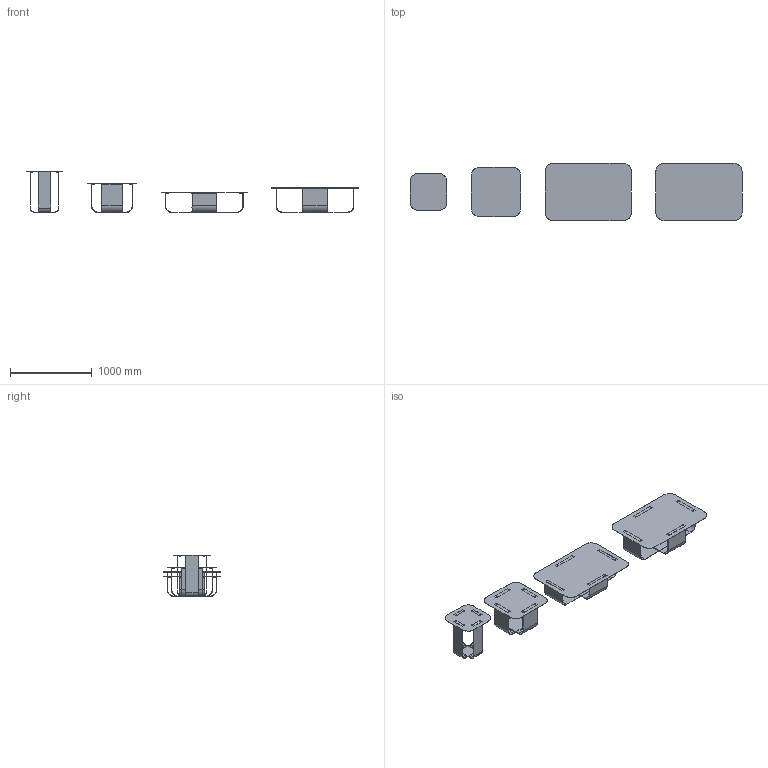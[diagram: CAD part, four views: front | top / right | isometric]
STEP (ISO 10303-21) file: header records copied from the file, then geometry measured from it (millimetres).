
FILE_DESCRIPTION(/* description */ (''),/* implementation_level */ '2;1');
FILE_NAME(/* name */ 'TRUE_Fiocco_3D',/* time_stamp */ '2026-07-30T12:16:11+02:00',/* author */ (''),/* organization */ (''),/* preprocessor_version */ 'ST-DEVELOPER v16.5',/* originating_system */ '',/* authorisation */ '');
FILE_SCHEMA (('CONFIG_CONTROL_DESIGN'));
Length unit declared in the file: millimetre
Products named in the file (1): Document
Bounding box: 4050 x 700 x 503.5 mm (x, y, z)
Volume: 13894408.6 mm3; surface area: 9369415.6 mm2
Topology: 60 solids, 60 shells, 920 faces, 2144 edges, 1344 vertices
Faces by surface type: plane 456, bspline 288, cylinder 176
Entity records: 26844 total; most frequent: CARTESIAN_POINT 13274, ORIENTED_EDGE 4288, EDGE_CURVE 2144, VERTEX_POINT 1344, B_SPLINE_CURVE_WITH_KNOTS 928, ADVANCED_FACE 920, FACE_OUTER_BOUND 920, EDGE_LOOP 920
